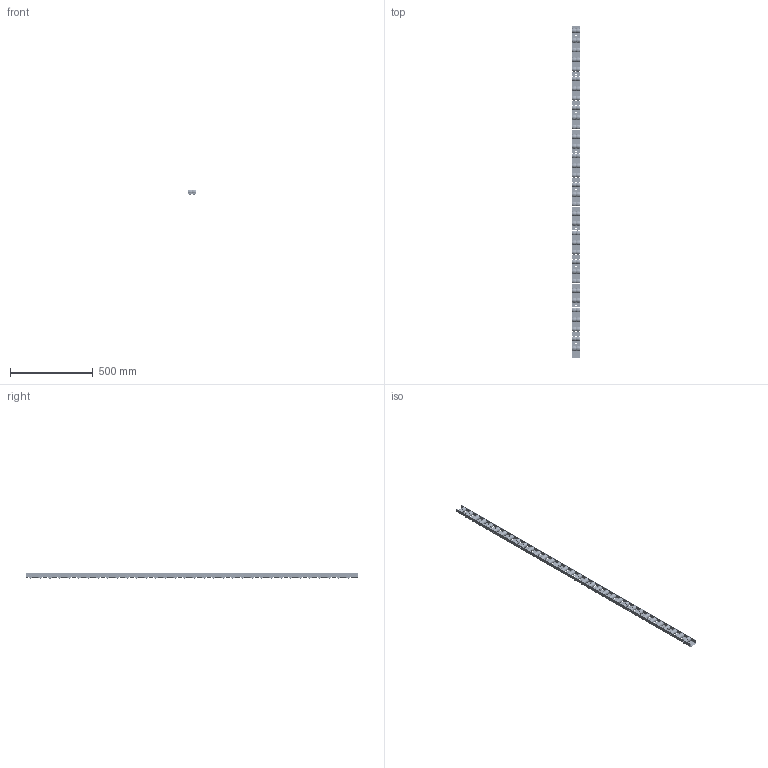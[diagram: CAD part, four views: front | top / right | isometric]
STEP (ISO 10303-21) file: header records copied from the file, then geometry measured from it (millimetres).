
FILE_DESCRIPTION(/* description */ ('Unknown'),/* implementation_level */ '2;1');
FILE_NAME(/* name */ ' Listwa T200G odwrócona',/* time_stamp */ '2025-02-06T14:30:36+01:00',/* author */ ('Unknown'),/* organization */ ('Unknown'),/* preprocessor_version */ 'ST-DEVELOPER v20',/* originating_system */ 'Solid Edge',/* authorisation */ 'Unknown');
FILE_SCHEMA (('AUTOMOTIVE_DESIGN {1 0 10303 214 3 1 1}'));
Length unit declared in the file: millimetre
Products named in the file (6):  Listwa T200G odwrócona; Ceownik T200; Rolka T 100G; 790-02-01; 790-02-02; Nit
Assembly tree (105 placements, depth 3):
   Listwa T200G odwrócona
    Ceownik T200
    Rolka T 100G  x68
      790-02-01
      790-02-02
    Nit  x34
Bounding box: 53.85 x 2000 x 30.88 mm (x, y, z)
Volume: 1132892.9 mm3; surface area: 901686.4 mm2
Topology: 171 solids, 171 shells, 6170 faces, 16838 edges, 11112 vertices
Faces by surface type: plane 5112, cylinder 786, cone 136, torus 102, sphere 34
Full cylindrical faces by diameter (mm): 2 x34, 5 x34, 5.2 x68, 5.3 x68, 10 x34, 11.5 x136, 16 x136, 20 x136
Entity records: 18291 total; most frequent: DIRECTION 3250, CARTESIAN_POINT 3022, ORIENTED_EDGE 2890, EDGE_CURVE 1445, AXIS2_PLACEMENT_3D 1153, LINE 944, VECTOR 944, VERTEX_POINT 925
